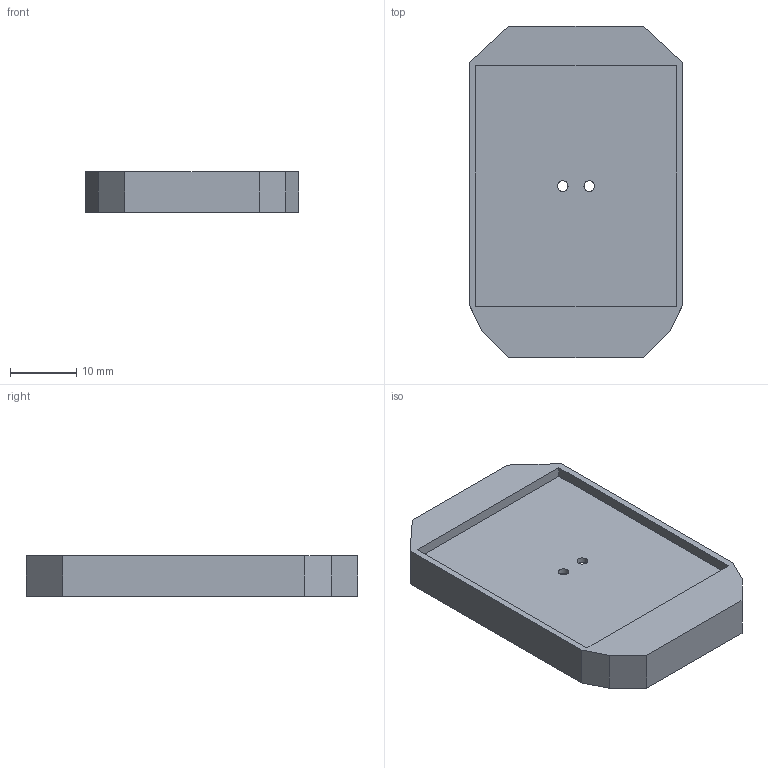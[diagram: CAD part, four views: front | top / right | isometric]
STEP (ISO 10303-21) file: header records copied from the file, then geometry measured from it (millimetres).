
FILE_DESCRIPTION(('Open CASCADE Model'),'2;1');
FILE_NAME('Open CASCADE Shape Model','2026-09-30T23:04:27',('Author'),( 'Open CASCADE'),'Open CASCADE STEP processor 8.0','Open CASCADE 8.0' ,'Unknown');
FILE_SCHEMA(('AP242_MANAGED_MODEL_BASED_3D_ENGINEERING_MIM_LF {1 0 10303 442 1 1 4 }' ));
Length unit declared in the file: millimetre
Products named in the file (1): Open CASCADE STEP translator 8.0 10
Bounding box: 32.4 x 50.2 x 6.1 mm (x, y, z)
Volume: 3455.2 mm3; surface area: 4743 mm2
Topology: 1 solids, 1 shells, 26 faces, 66 edges, 44 vertices
Faces by surface type: plane 24, cylinder 2
Full cylindrical faces by diameter (mm): 1.6 x2
Entity records: 1630 total; most frequent: CARTESIAN_POINT 289, DIRECTION 236, LINE 170, VECTOR 170, ORIENTED_EDGE 132, PCURVE 132, DEFINITIONAL_REPRESENTATION 132, EDGE_CURVE 66
